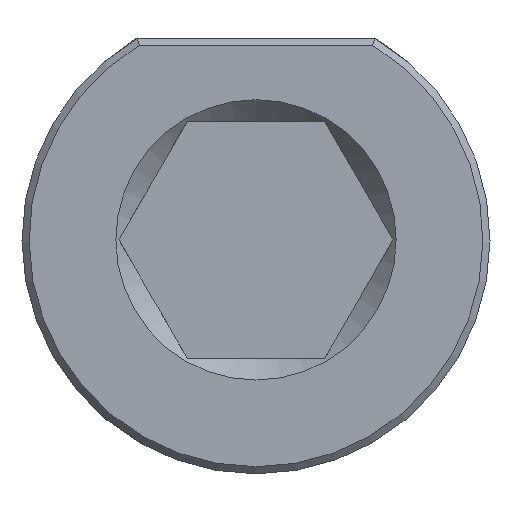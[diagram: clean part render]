
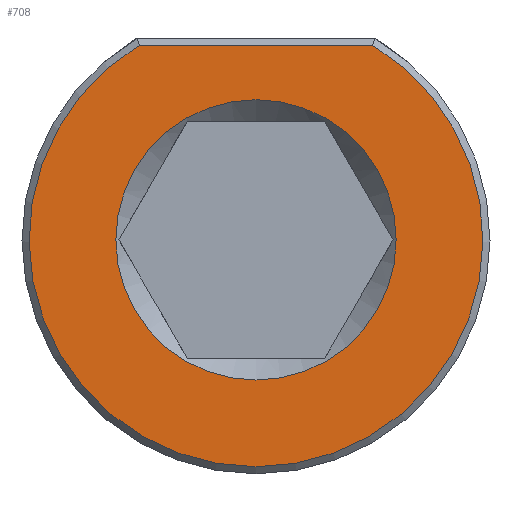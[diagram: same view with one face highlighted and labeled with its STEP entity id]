
A CAD part, front view. The second image highlights one B-rep face of the part: STEP entity #708.
In plain terms, the highlighted planar face has unit normal (0, -1, 0).
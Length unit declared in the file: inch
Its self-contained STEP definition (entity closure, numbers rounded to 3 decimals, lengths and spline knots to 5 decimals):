
#35=FACE_BOUND('',#211,.T.);
#49=PLANE('',#788);
#94=LINE('',#1291,#132);
#132=VECTOR('',#942,0.3937);
#167=FACE_OUTER_BOUND('',#210,.T.);
#210=EDGE_LOOP('',(#572,#573));
#211=EDGE_LOOP('',(#574));
#253=CIRCLE('',#786,0.4775);
#254=CIRCLE('',#789,0.295);
#333=VERTEX_POINT('',#1279);
#334=VERTEX_POINT('',#1284);
#335=VERTEX_POINT('',#1294);
#422=EDGE_CURVE('',#333,#334,#253,.T.);
#424=EDGE_CURVE('',#334,#333,#94,.T.);
#426=EDGE_CURVE('',#335,#335,#254,.T.);
#572=ORIENTED_EDGE('',*,*,#422,.F.);
#573=ORIENTED_EDGE('',*,*,#424,.F.);
#574=ORIENTED_EDGE('',*,*,#426,.F.);
#708=ADVANCED_FACE('',(#167,#35),#49,.F.);
#786=AXIS2_PLACEMENT_3D('',#1285,#938,#939);
#788=AXIS2_PLACEMENT_3D('',#1293,#944,#945);
#789=AXIS2_PLACEMENT_3D('',#1295,#946,#947);
#938=DIRECTION('center_axis',(0.,1.,0.));
#939=DIRECTION('ref_axis',(-0.507,0.,-0.862));
#942=DIRECTION('',(1.,0.,0.));
#944=DIRECTION('center_axis',(0.,1.,0.));
#945=DIRECTION('ref_axis',(1.,0.,0.));
#946=DIRECTION('center_axis',(0.,-1.,0.));
#947=DIRECTION('ref_axis',(1.,0.,0.));
#1279=CARTESIAN_POINT('',(0.24559,0.,0.4095));
#1284=CARTESIAN_POINT('',(-0.24559,0.,0.4095));
#1285=CARTESIAN_POINT('Origin',(0.,0.,0.));
#1291=CARTESIAN_POINT('',(-0.12486,0.,0.4095));
#1293=CARTESIAN_POINT('Origin',(0.,0.,-0.034));
#1294=CARTESIAN_POINT('',(-0.295,0.,0.));
#1295=CARTESIAN_POINT('Origin',(0.,0.,0.));
